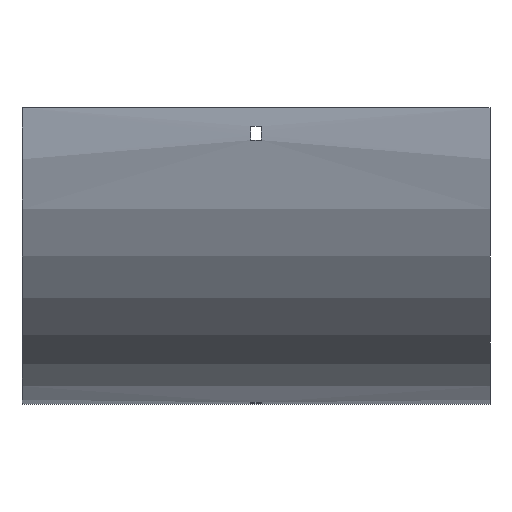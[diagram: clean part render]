
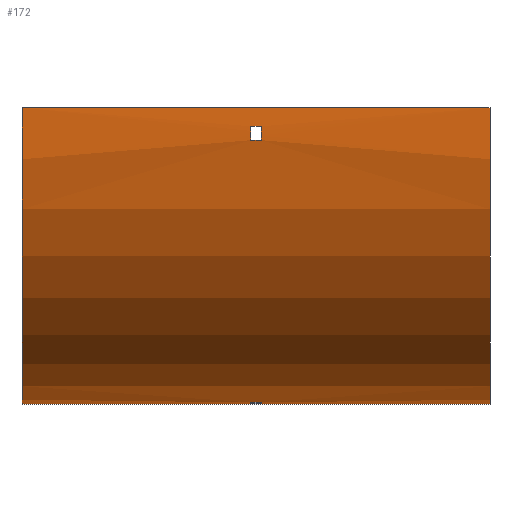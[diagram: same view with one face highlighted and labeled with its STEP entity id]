
A CAD part, front view. The second image highlights one B-rep face of the part: STEP entity #172.
In plain terms, the highlighted cylindrical face has radius 192.5 mm (diameter 385 mm), a partial arc.
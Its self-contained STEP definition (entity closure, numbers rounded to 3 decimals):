
#21 = VECTOR ( 'NONE', #1604, 1000. ) ;
#26 = ORIENTED_EDGE ( 'NONE', *, *, #754, .T. ) ;
#32 = LINE ( 'NONE', #561, #21 ) ;
#89 = LINE ( 'NONE', #239, #1309 ) ;
#95 = DIRECTION ( 'NONE',  ( 0., 0., -1. ) ) ;
#172 = ADVANCED_FACE ( 'NONE', ( #504, #1287, #1009 ), #765, .T. ) ;
#194 = VERTEX_POINT ( 'NONE', #1678 ) ;
#205 = DIRECTION ( 'NONE',  ( 0., 0., -1. ) ) ;
#212 = AXIS2_PLACEMENT_3D ( 'NONE', #1161, #1689, #517 ) ;
#218 = DIRECTION ( 'NONE',  ( -1., 0., 0. ) ) ;
#232 = LINE ( 'NONE', #1676, #553 ) ;
#239 = CARTESIAN_POINT ( 'NONE',  ( 152., -92.126, -12. ) ) ;
#244 = CIRCLE ( 'NONE', #1064, 192.5 ) ;
#258 = VERTEX_POINT ( 'NONE', #1191 ) ;
#272 = CIRCLE ( 'NONE', #212, 192.5 ) ;
#320 = ORIENTED_EDGE ( 'NONE', *, *, #1616, .F. ) ;
#341 = DIRECTION ( 'NONE',  ( 1., 0., 0. ) ) ;
#355 = ORIENTED_EDGE ( 'NONE', *, *, #1259, .F. ) ;
#356 = VECTOR ( 'NONE', #1682, 1000. ) ;
#366 = CARTESIAN_POINT ( 'NONE',  ( 152., 100., -192.5 ) ) ;
#382 = DIRECTION ( 'NONE',  ( 0., 0., 1. ) ) ;
#392 = DIRECTION ( 'NONE',  ( -1., 0., 0. ) ) ;
#418 = EDGE_CURVE ( 'NONE', #1212, #1159, #89, .T. ) ;
#422 = CARTESIAN_POINT ( 'NONE',  ( 152., -92.5, 0. ) ) ;
#429 = VERTEX_POINT ( 'NONE', #508 ) ;
#435 = EDGE_CURVE ( 'NONE', #1552, #194, #272, .T. ) ;
#436 = VECTOR ( 'NONE', #552, 1000. ) ;
#465 = AXIS2_PLACEMENT_3D ( 'NONE', #998, #1150, #1125 ) ;
#468 = VERTEX_POINT ( 'NONE', #783 ) ;
#476 = ORIENTED_EDGE ( 'NONE', *, *, #1360, .T. ) ;
#478 = DIRECTION ( 'NONE',  ( 0., 0., 1. ) ) ;
#483 = ORIENTED_EDGE ( 'NONE', *, *, #435, .F. ) ;
#504 = FACE_OUTER_BOUND ( 'NONE', #1527, .T. ) ;
#508 = CARTESIAN_POINT ( 'NONE',  ( -152., 100., -192.5 ) ) ;
#515 = EDGE_LOOP ( 'NONE', ( #869, #538, #1526, #26 ) ) ;
#517 = DIRECTION ( 'NONE',  ( 0., 1., 0. ) ) ;
#518 = CIRCLE ( 'NONE', #1277, 192.5 ) ;
#538 = ORIENTED_EDGE ( 'NONE', *, *, #1145, .T. ) ;
#552 = DIRECTION ( 'NONE',  ( 1., 0., 0. ) ) ;
#553 = VECTOR ( 'NONE', #1538, 1000. ) ;
#561 = CARTESIAN_POINT ( 'NONE',  ( 152., -91.351, -21. ) ) ;
#602 = VECTOR ( 'NONE', #1449, 1000. ) ;
#642 = CARTESIAN_POINT ( 'NONE',  ( -3.25, -92.126, -12. ) ) ;
#679 = CARTESIAN_POINT ( 'NONE',  ( -3.25, -91.351, -21. ) ) ;
#726 = ORIENTED_EDGE ( 'NONE', *, *, #989, .F. ) ;
#754 = EDGE_CURVE ( 'NONE', #1159, #258, #1609, .T. ) ;
#765 = CYLINDRICAL_SURFACE ( 'NONE', #865, 192.5 ) ;
#770 = DIRECTION ( 'NONE',  ( 1., 0., 0. ) ) ;
#783 = CARTESIAN_POINT ( 'NONE',  ( 152., -92.5, 0. ) ) ;
#811 = CARTESIAN_POINT ( 'NONE',  ( -152., -92.5, 0. ) ) ;
#865 = AXIS2_PLACEMENT_3D ( 'NONE', #1032, #392, #1549 ) ;
#869 = ORIENTED_EDGE ( 'NONE', *, *, #1525, .T. ) ;
#912 = LINE ( 'NONE', #422, #602 ) ;
#980 = CIRCLE ( 'NONE', #465, 192.5 ) ;
#984 = VERTEX_POINT ( 'NONE', #679 ) ;
#988 = CARTESIAN_POINT ( 'NONE',  ( 152., 100., -192.5 ) ) ;
#989 = EDGE_CURVE ( 'NONE', #194, #1636, #1192, .T. ) ;
#998 = CARTESIAN_POINT ( 'NONE',  ( 152., 100., 0. ) ) ;
#1009 = FACE_BOUND ( 'NONE', #1497, .T. ) ;
#1016 = CARTESIAN_POINT ( 'NONE',  ( -152., 100., 0. ) ) ;
#1032 = CARTESIAN_POINT ( 'NONE',  ( 152., 100., 0. ) ) ;
#1039 = AXIS2_PLACEMENT_3D ( 'NONE', #1671, #1298, #95 ) ;
#1053 = VERTEX_POINT ( 'NONE', #1243 ) ;
#1064 = AXIS2_PLACEMENT_3D ( 'NONE', #1253, #1650, #478 ) ;
#1125 = DIRECTION ( 'NONE',  ( 0., 0., -1. ) ) ;
#1142 = EDGE_CURVE ( 'NONE', #468, #1655, #980, .T. ) ;
#1145 = EDGE_CURVE ( 'NONE', #984, #1212, #244, .T. ) ;
#1150 = DIRECTION ( 'NONE',  ( 1., 0., 0. ) ) ;
#1159 = VERTEX_POINT ( 'NONE', #1520 ) ;
#1161 = CARTESIAN_POINT ( 'NONE',  ( -3.25, 100., 0. ) ) ;
#1191 = CARTESIAN_POINT ( 'NONE',  ( 3.25, -91.351, -21. ) ) ;
#1192 = LINE ( 'NONE', #1462, #436 ) ;
#1212 = VERTEX_POINT ( 'NONE', #642 ) ;
#1219 = CIRCLE ( 'NONE', #1442, 192.5 ) ;
#1232 = ORIENTED_EDGE ( 'NONE', *, *, #1574, .F. ) ;
#1243 = CARTESIAN_POINT ( 'NONE',  ( 3.25, 79., -191.351 ) ) ;
#1251 = CARTESIAN_POINT ( 'NONE',  ( 3.25, 88., -192.126 ) ) ;
#1253 = CARTESIAN_POINT ( 'NONE',  ( -3.25, 100., 0. ) ) ;
#1259 = EDGE_CURVE ( 'NONE', #1636, #1053, #1219, .T. ) ;
#1277 = AXIS2_PLACEMENT_3D ( 'NONE', #1016, #341, #205 ) ;
#1287 = FACE_BOUND ( 'NONE', #515, .T. ) ;
#1298 = DIRECTION ( 'NONE',  ( 1., 0., 0. ) ) ;
#1309 = VECTOR ( 'NONE', #770, 1000. ) ;
#1315 = VERTEX_POINT ( 'NONE', #811 ) ;
#1360 = EDGE_CURVE ( 'NONE', #468, #1315, #912, .T. ) ;
#1408 = CARTESIAN_POINT ( 'NONE',  ( -3.25, 79., -191.351 ) ) ;
#1439 = ORIENTED_EDGE ( 'NONE', *, *, #1541, .T. ) ;
#1442 = AXIS2_PLACEMENT_3D ( 'NONE', #1555, #218, #382 ) ;
#1449 = DIRECTION ( 'NONE',  ( -1., 0., 0. ) ) ;
#1462 = CARTESIAN_POINT ( 'NONE',  ( 152., 88., -192.126 ) ) ;
#1497 = EDGE_LOOP ( 'NONE', ( #483, #320, #355, #726 ) ) ;
#1520 = CARTESIAN_POINT ( 'NONE',  ( 3.25, -92.126, -12. ) ) ;
#1525 = EDGE_CURVE ( 'NONE', #258, #984, #32, .T. ) ;
#1526 = ORIENTED_EDGE ( 'NONE', *, *, #418, .T. ) ;
#1527 = EDGE_LOOP ( 'NONE', ( #1439, #1232, #1628, #476 ) ) ;
#1538 = DIRECTION ( 'NONE',  ( -1., 0., 0. ) ) ;
#1541 = EDGE_CURVE ( 'NONE', #1315, #429, #518, .T. ) ;
#1549 = DIRECTION ( 'NONE',  ( 0., 0., 1. ) ) ;
#1552 = VERTEX_POINT ( 'NONE', #1408 ) ;
#1555 = CARTESIAN_POINT ( 'NONE',  ( 3.25, 100., 0. ) ) ;
#1574 = EDGE_CURVE ( 'NONE', #1655, #429, #1665, .T. ) ;
#1604 = DIRECTION ( 'NONE',  ( -1., 0., 0. ) ) ;
#1609 = CIRCLE ( 'NONE', #1039, 192.5 ) ;
#1616 = EDGE_CURVE ( 'NONE', #1053, #1552, #232, .T. ) ;
#1628 = ORIENTED_EDGE ( 'NONE', *, *, #1142, .F. ) ;
#1636 = VERTEX_POINT ( 'NONE', #1251 ) ;
#1650 = DIRECTION ( 'NONE',  ( -1., 0., 0. ) ) ;
#1655 = VERTEX_POINT ( 'NONE', #988 ) ;
#1665 = LINE ( 'NONE', #366, #356 ) ;
#1671 = CARTESIAN_POINT ( 'NONE',  ( 3.25, 100., 0. ) ) ;
#1676 = CARTESIAN_POINT ( 'NONE',  ( 152., 79., -191.351 ) ) ;
#1678 = CARTESIAN_POINT ( 'NONE',  ( -3.25, 88., -192.126 ) ) ;
#1682 = DIRECTION ( 'NONE',  ( -1., 0., 0. ) ) ;
#1689 = DIRECTION ( 'NONE',  ( 1., 0., 0. ) ) ;
